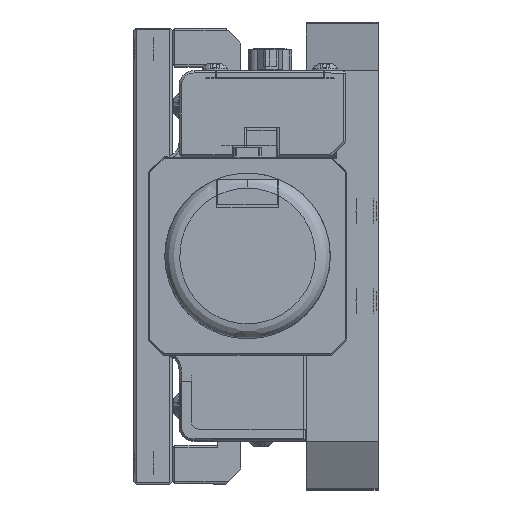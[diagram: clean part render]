
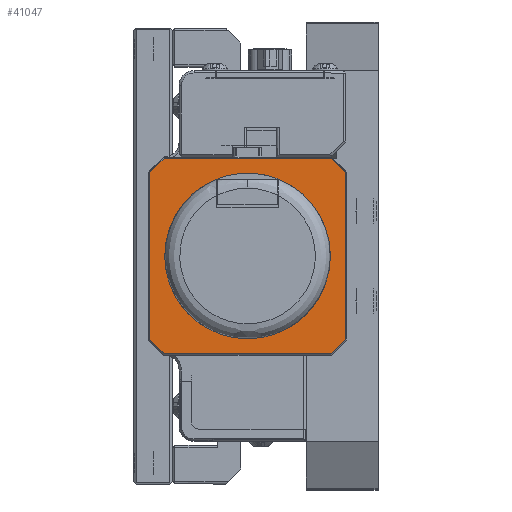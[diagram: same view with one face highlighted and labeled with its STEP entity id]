
A CAD part, left-side view. The second image highlights one B-rep face of the part: STEP entity #41047.
In plain terms, the highlighted planar face has unit normal (-1, 0, 0).
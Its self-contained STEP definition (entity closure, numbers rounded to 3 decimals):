
#1112 = EDGE_CURVE ( 'NONE', #33875, #63126, #20309, .T. ) ;
#1350 = VECTOR ( 'NONE', #79418, 1000. ) ;
#1616 = EDGE_CURVE ( 'NONE', #13165, #33875, #76377, .T. ) ;
#1857 = EDGE_CURVE ( 'NONE', #21451, #13165, #59870, .T. ) ;
#3451 = LINE ( 'NONE', #11980, #72295 ) ;
#3526 = EDGE_CURVE ( 'NONE', #6332, #21451, #4054, .T. ) ;
#3657 = EDGE_CURVE ( 'NONE', #20835, #6332, #44922, .T. ) ;
#4054 = LINE ( 'NONE', #71301, #19826 ) ;
#4118 = CARTESIAN_POINT ( 'NONE',  ( -120.65, 9.948, 18.542 ) ) ;
#6322 = CARTESIAN_POINT ( 'NONE',  ( -120.65, -12.52, 41.01 ) ) ;
#6332 = VERTEX_POINT ( 'NONE', #74412 ) ;
#7604 = VERTEX_POINT ( 'NONE', #4118 ) ;
#10513 = CARTESIAN_POINT ( 'NONE',  ( -120.65, 46.81, 20.055 ) ) ;
#11946 = VERTEX_POINT ( 'NONE', #12513 ) ;
#11980 = CARTESIAN_POINT ( 'NONE',  ( -120.65, 6.667, 18.542 ) ) ;
#12513 = CARTESIAN_POINT ( 'NONE',  ( -120.65, 45.297, 18.542 ) ) ;
#13165 = VERTEX_POINT ( 'NONE', #55043 ) ;
#19826 = VECTOR ( 'NONE', #70463, 1000. ) ;
#20309 = LINE ( 'NONE', #74716, #71258 ) ;
#20835 = VERTEX_POINT ( 'NONE', #27375 ) ;
#21451 = VERTEX_POINT ( 'NONE', #32600 ) ;
#27375 = CARTESIAN_POINT ( 'NONE',  ( -120.65, 48.323, 21.568 ) ) ;
#28880 = ORIENTED_EDGE ( 'NONE', *, *, #1616, .F. ) ;
#30052 = EDGE_LOOP ( 'NONE', ( #69936, #67223, #78591, #42718, #28880, #42446, #62033, #54578 ) ) ;
#30384 = DIRECTION ( 'NONE',  ( 0., 0., 1. ) ) ;
#30486 = CARTESIAN_POINT ( 'NONE',  ( -120.65, 48.323, 18.288 ) ) ;
#32217 = DIRECTION ( 'NONE',  ( 0., 1., 0. ) ) ;
#32600 = CARTESIAN_POINT ( 'NONE',  ( -120.65, 45.297, 59.944 ) ) ;
#32866 = LINE ( 'NONE', #6322, #1350 ) ;
#33875 = VERTEX_POINT ( 'NONE', #40547 ) ;
#40547 = CARTESIAN_POINT ( 'NONE',  ( -120.65, 6.921, 56.918 ) ) ;
#41047 = ADVANCED_FACE ( 'NONE', ( #44101 ), #70459, .T. ) ;
#42446 = ORIENTED_EDGE ( 'NONE', *, *, #1857, .F. ) ;
#42718 = ORIENTED_EDGE ( 'NONE', *, *, #1112, .F. ) ;
#44101 = FACE_OUTER_BOUND ( 'NONE', #30052, .T. ) ;
#44129 = AXIS2_PLACEMENT_3D ( 'NONE', #70655, #70355, #70249 ) ;
#44922 = LINE ( 'NONE', #30486, #60568 ) ;
#46136 = CARTESIAN_POINT ( 'NONE',  ( -120.65, 8.435, 58.431 ) ) ;
#47103 = DIRECTION ( 'NONE',  ( 0., -1., 0. ) ) ;
#47117 = CARTESIAN_POINT ( 'NONE',  ( -120.65, 6.667, 59.944 ) ) ;
#49667 = LINE ( 'NONE', #10513, #51786 ) ;
#51786 = VECTOR ( 'NONE', #57336, 1000. ) ;
#54578 = ORIENTED_EDGE ( 'NONE', *, *, #3657, .F. ) ;
#55043 = CARTESIAN_POINT ( 'NONE',  ( -120.65, 9.948, 59.944 ) ) ;
#55778 = VECTOR ( 'NONE', #47103, 1000. ) ;
#57336 = DIRECTION ( 'NONE',  ( 0., 0.707, 0.707 ) ) ;
#58888 = VECTOR ( 'NONE', #64586, 1000. ) ;
#59870 = LINE ( 'NONE', #47117, #55778 ) ;
#60568 = VECTOR ( 'NONE', #30384, 1000. ) ;
#62033 = ORIENTED_EDGE ( 'NONE', *, *, #3526, .F. ) ;
#63126 = VERTEX_POINT ( 'NONE', #71453 ) ;
#64586 = DIRECTION ( 'NONE',  ( 0., -0.707, -0.707 ) ) ;
#67223 = ORIENTED_EDGE ( 'NONE', *, *, #85979, .F. ) ;
#69936 = ORIENTED_EDGE ( 'NONE', *, *, #85817, .F. ) ;
#70249 = DIRECTION ( 'NONE',  ( 0., 0., 1. ) ) ;
#70355 = DIRECTION ( 'NONE',  ( -1., 0., 0. ) ) ;
#70459 = PLANE ( 'NONE',  #44129 ) ;
#70463 = DIRECTION ( 'NONE',  ( 0., -0.707, 0.707 ) ) ;
#70655 = CARTESIAN_POINT ( 'NONE',  ( -120.65, 6.667, 60.198 ) ) ;
#71258 = VECTOR ( 'NONE', #72406, 1000. ) ;
#71301 = CARTESIAN_POINT ( 'NONE',  ( -120.65, 25.855, 79.386 ) ) ;
#71453 = CARTESIAN_POINT ( 'NONE',  ( -120.65, 6.921, 21.568 ) ) ;
#72295 = VECTOR ( 'NONE', #32217, 1000. ) ;
#72406 = DIRECTION ( 'NONE',  ( 0., 0., -1. ) ) ;
#74412 = CARTESIAN_POINT ( 'NONE',  ( -120.65, 48.323, 56.918 ) ) ;
#74716 = CARTESIAN_POINT ( 'NONE',  ( -120.65, 6.921, 60.198 ) ) ;
#76377 = LINE ( 'NONE', #46136, #58888 ) ;
#78591 = ORIENTED_EDGE ( 'NONE', *, *, #86096, .F. ) ;
#79418 = DIRECTION ( 'NONE',  ( 0., 0.707, -0.707 ) ) ;
#85817 = EDGE_CURVE ( 'NONE', #11946, #20835, #49667, .T. ) ;
#85979 = EDGE_CURVE ( 'NONE', #7604, #11946, #3451, .T. ) ;
#86096 = EDGE_CURVE ( 'NONE', #63126, #7604, #32866, .T. ) ;
